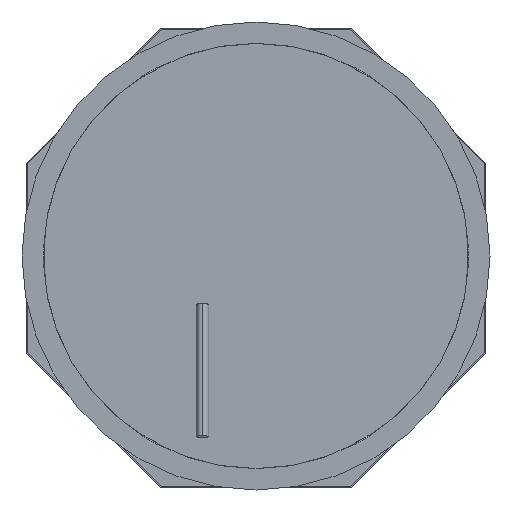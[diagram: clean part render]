
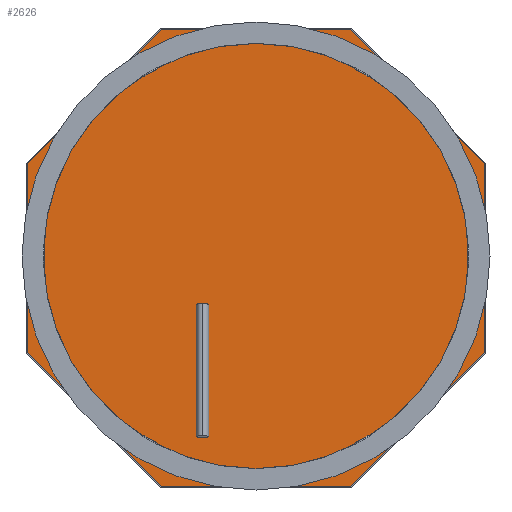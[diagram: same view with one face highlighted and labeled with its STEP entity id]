
A CAD part, front view. The second image highlights one B-rep face of the part: STEP entity #2626.
In plain terms, the highlighted planar face has unit normal (0, -1, 0).
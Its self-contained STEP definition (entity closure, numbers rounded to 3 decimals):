
#2080=DIRECTION('',(-0.707,0.,0.707));
#2081=VECTOR('',#2080,353.738);
#2082=CARTESIAN_POINT('',(-176.869,52.75,-431.));
#2083=LINE('',#2082,#2081);
#2088=DIRECTION('',(0.,0.,1.));
#2089=VECTOR('',#2088,353.738);
#2090=CARTESIAN_POINT('',(-427.,52.75,-180.869));
#2091=LINE('',#2090,#2089);
#2096=DIRECTION('',(0.707,0.,0.707));
#2097=VECTOR('',#2096,353.738);
#2098=CARTESIAN_POINT('',(-427.,52.75,172.869));
#2099=LINE('',#2098,#2097);
#2104=DIRECTION('',(1.,0.,0.));
#2105=VECTOR('',#2104,353.738);
#2106=CARTESIAN_POINT('',(-176.869,52.75,423.));
#2107=LINE('',#2106,#2105);
#2112=DIRECTION('',(0.707,0.,-0.707));
#2113=VECTOR('',#2112,353.738);
#2114=CARTESIAN_POINT('',(176.869,52.75,423.));
#2115=LINE('',#2114,#2113);
#2120=DIRECTION('',(0.,0.,-1.));
#2121=VECTOR('',#2120,353.738);
#2122=CARTESIAN_POINT('',(427.,52.75,172.869));
#2123=LINE('',#2122,#2121);
#2128=DIRECTION('',(-0.707,0.,-0.707));
#2129=VECTOR('',#2128,353.738);
#2130=CARTESIAN_POINT('',(427.,52.75,-180.869));
#2131=LINE('',#2130,#2129);
#2136=DIRECTION('',(-1.,0.,0.));
#2137=VECTOR('',#2136,353.738);
#2138=CARTESIAN_POINT('',(176.869,52.75,-431.));
#2139=LINE('',#2138,#2137);
#2291=CARTESIAN_POINT('',(-176.869,52.75,-431.));
#2292=CARTESIAN_POINT('',(-427.,52.75,-180.869));
#2293=VERTEX_POINT('',#2291);
#2294=VERTEX_POINT('',#2292);
#2295=CARTESIAN_POINT('',(176.869,52.75,-431.));
#2296=VERTEX_POINT('',#2295);
#2297=CARTESIAN_POINT('',(427.,52.75,-180.869));
#2298=VERTEX_POINT('',#2297);
#2299=CARTESIAN_POINT('',(427.,52.75,172.869));
#2300=VERTEX_POINT('',#2299);
#2301=CARTESIAN_POINT('',(176.869,52.75,423.));
#2302=VERTEX_POINT('',#2301);
#2303=CARTESIAN_POINT('',(-176.869,52.75,423.));
#2304=VERTEX_POINT('',#2303);
#2305=CARTESIAN_POINT('',(-427.,52.75,172.869));
#2306=VERTEX_POINT('',#2305);
#2604=CARTESIAN_POINT('',(0.,52.75,0.));
#2605=DIRECTION('',(0.,1.,0.));
#2606=DIRECTION('',(1.,0.,0.));
#2607=AXIS2_PLACEMENT_3D('',#2604,#2605,#2606);
#2608=PLANE('',#2607);
#2609=ORIENTED_EDGE('',*,*,#2594,.T.);
#2611=ORIENTED_EDGE('',*,*,#2610,.T.);
#2613=ORIENTED_EDGE('',*,*,#2612,.T.);
#2615=ORIENTED_EDGE('',*,*,#2614,.T.);
#2617=ORIENTED_EDGE('',*,*,#2616,.T.);
#2619=ORIENTED_EDGE('',*,*,#2618,.T.);
#2621=ORIENTED_EDGE('',*,*,#2620,.T.);
#2623=ORIENTED_EDGE('',*,*,#2622,.T.);
#2624=EDGE_LOOP('',(#2609,#2611,#2613,#2615,#2617,#2619,#2621,#2623));
#2625=FACE_OUTER_BOUND('',#2624,.F.);
#2626=ADVANCED_FACE('',(#2625),#2608,.F.);
#2594=EDGE_CURVE('',#2293,#2294,#2083,.T.);
#2610=EDGE_CURVE('',#2294,#2306,#2091,.T.);
#2612=EDGE_CURVE('',#2306,#2304,#2099,.T.);
#2614=EDGE_CURVE('',#2304,#2302,#2107,.T.);
#2616=EDGE_CURVE('',#2302,#2300,#2115,.T.);
#2618=EDGE_CURVE('',#2300,#2298,#2123,.T.);
#2620=EDGE_CURVE('',#2298,#2296,#2131,.T.);
#2622=EDGE_CURVE('',#2296,#2293,#2139,.T.);
